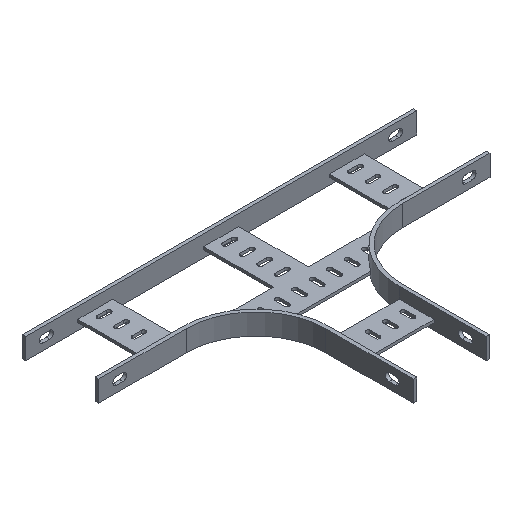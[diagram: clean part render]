
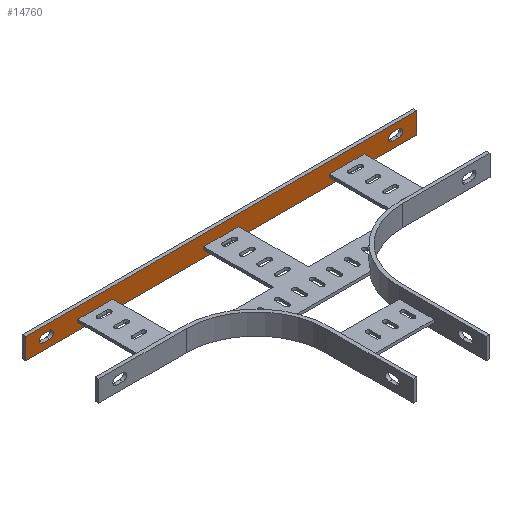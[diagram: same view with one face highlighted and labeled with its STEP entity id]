
A CAD part, isometric view. The second image highlights one B-rep face of the part: STEP entity #14760.
In plain terms, the highlighted planar face has unit normal (0, -1, 0).
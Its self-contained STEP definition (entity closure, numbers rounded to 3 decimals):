
#6440=CARTESIAN_POINT('',(0.,205.,-14.));
#6450=VERTEX_POINT('',#6440);
#6530=CARTESIAN_POINT('',(50.,205.,-14.));
#6540=VERTEX_POINT('',#6530);
#6570=CARTESIAN_POINT('',(0.,205.,-14.));
#6580=DIRECTION('',(-1.,0.,0.));
#6590=VECTOR('',#6580,1.);
#6600=LINE('',#6570,#6590);
#6610=EDGE_CURVE('',#6540,#6450,#6600,.T.);
#8190=CARTESIAN_POINT('',(0.,205.,-10.));
#8200=VERTEX_POINT('',#8190);
#8250=CARTESIAN_POINT('',(0.,205.,0.));
#8260=DIRECTION('',(0.,0.,1.));
#8270=VECTOR('',#8260,1.);
#8280=LINE('',#8250,#8270);
#8290=EDGE_CURVE('',#6450,#8200,#8280,.T.);
#8430=CARTESIAN_POINT('',(50.,205.,-10.));
#8440=VERTEX_POINT('',#8430);
#8490=CARTESIAN_POINT('',(0.,205.,-10.));
#8500=DIRECTION('',(1.,0.,0.));
#8510=VECTOR('',#8500,1.);
#8520=LINE('',#8490,#8510);
#8530=EDGE_CURVE('',#8200,#8440,#8520,.T.);
#10100=CARTESIAN_POINT('',(50.,205.,0.));
#10110=DIRECTION('',(0.,0.,-1.));
#10120=VECTOR('',#10110,1.);
#10130=LINE('',#10100,#10120);
#10140=EDGE_CURVE('',#8440,#6540,#10130,.T.);
#12910=CARTESIAN_POINT('',(-435.,205.,-30.));
#12920=DIRECTION('',(0.,1.,-0.));
#12930=DIRECTION('',(-1.,0.,0.));
#12940=AXIS2_PLACEMENT_3D('',#12910,#12920,#12930);
#12950=PLANE('',#12940);
#12960=CARTESIAN_POINT('',(-435.,205.,-30.));
#12970=DIRECTION('',(1.,0.,0.));
#12980=VECTOR('',#12970,1.);
#12990=LINE('',#12960,#12980);
#13000=CARTESIAN_POINT('',(-435.,205.,-30.));
#13010=VERTEX_POINT('',#13000);
#13020=CARTESIAN_POINT('',(125.,205.,-30.));
#13030=VERTEX_POINT('',#13020);
#13040=EDGE_CURVE('',#13010,#13030,#12990,.T.);
#13050=ORIENTED_EDGE('',*,*,#13040,.T.);
#13060=CARTESIAN_POINT('',(-435.,205.,-30.));
#13070=DIRECTION('',(0.,0.,1.));
#13080=VECTOR('',#13070,1.);
#13090=LINE('',#13060,#13080);
#13100=CARTESIAN_POINT('',(-435.,205.,0.));
#13110=VERTEX_POINT('',#13100);
#13120=EDGE_CURVE('',#13010,#13110,#13090,.T.);
#13130=ORIENTED_EDGE('',*,*,#13120,.F.);
#13140=CARTESIAN_POINT('',(-435.,205.,0.));
#13150=DIRECTION('',(1.,0.,0.));
#13160=VECTOR('',#13150,1.);
#13170=LINE('',#13140,#13160);
#13180=CARTESIAN_POINT('',(125.,205.,0.));
#13190=VERTEX_POINT('',#13180);
#13200=EDGE_CURVE('',#13110,#13190,#13170,.T.);
#13210=ORIENTED_EDGE('',*,*,#13200,.F.);
#13220=CARTESIAN_POINT('',(125.,205.,-30.));
#13230=DIRECTION('',(0.,0.,1.));
#13240=VECTOR('',#13230,1.);
#13250=LINE('',#13220,#13240);
#13260=EDGE_CURVE('',#13030,#13190,#13250,.T.);
#13270=ORIENTED_EDGE('',*,*,#13260,.T.);
#13280=EDGE_LOOP('',(#13270,#13210,#13130,#13050));
#13290=FACE_OUTER_BOUND('',#13280,.T.);
#13300=CARTESIAN_POINT('',(90.5,205.,-15.));
#13310=DIRECTION('',(0.,-1.,0.));
#13320=DIRECTION('',(1.,0.,0.));
#13330=AXIS2_PLACEMENT_3D('',#13300,#13310,#13320);
#13340=CIRCLE('',#13330,5.5);
#13350=CARTESIAN_POINT('',(90.5,205.,-9.5));
#13360=VERTEX_POINT('',#13350);
#13370=CARTESIAN_POINT('',(90.5,205.,-20.5));
#13380=VERTEX_POINT('',#13370);
#13390=EDGE_CURVE('',#13360,#13380,#13340,.T.);
#13400=ORIENTED_EDGE('',*,*,#13390,.F.);
#13410=CARTESIAN_POINT('',(0.,205.,-20.5));
#13420=DIRECTION('',(-1.,0.,0.));
#13430=VECTOR('',#13420,1.);
#13440=LINE('',#13410,#13430);
#13450=CARTESIAN_POINT('',(99.5,205.,-20.5));
#13460=VERTEX_POINT('',#13450);
#13470=EDGE_CURVE('',#13460,#13380,#13440,.T.);
#13480=ORIENTED_EDGE('',*,*,#13470,.T.);
#13490=CARTESIAN_POINT('',(99.5,205.,-15.));
#13500=DIRECTION('',(0.,1.,0.));
#13510=DIRECTION('',(1.,0.,0.));
#13520=AXIS2_PLACEMENT_3D('',#13490,#13500,#13510);
#13530=CIRCLE('',#13520,5.5);
#13540=CARTESIAN_POINT('',(99.5,205.,-9.5));
#13550=VERTEX_POINT('',#13540);
#13560=EDGE_CURVE('',#13550,#13460,#13530,.T.);
#13570=ORIENTED_EDGE('',*,*,#13560,.T.);
#13580=CARTESIAN_POINT('',(0.,205.,-9.5));
#13590=DIRECTION('',(1.,0.,0.));
#13600=VECTOR('',#13590,1.);
#13610=LINE('',#13580,#13600);
#13620=EDGE_CURVE('',#13360,#13550,#13610,.T.);
#13630=ORIENTED_EDGE('',*,*,#13620,.T.);
#13640=EDGE_LOOP('',(#13630,#13570,#13480,#13400));
#13650=FACE_BOUND('',#13640,.T.);
#13660=CARTESIAN_POINT('',(0.,205.,-9.5));
#13670=DIRECTION('',(1.,0.,0.));
#13680=VECTOR('',#13670,1.);
#13690=LINE('',#13660,#13680);
#13700=CARTESIAN_POINT('',(-409.5,205.,-9.5));
#13710=VERTEX_POINT('',#13700);
#13720=CARTESIAN_POINT('',(-400.5,205.,-9.5));
#13730=VERTEX_POINT('',#13720);
#13740=EDGE_CURVE('',#13710,#13730,#13690,.T.);
#13750=ORIENTED_EDGE('',*,*,#13740,.T.);
#13760=CARTESIAN_POINT('',(-409.5,205.,-15.));
#13770=DIRECTION('',(0.,1.,0.));
#13780=DIRECTION('',(-1.,0.,0.));
#13790=AXIS2_PLACEMENT_3D('',#13760,#13770,#13780);
#13800=CIRCLE('',#13790,5.5);
#13810=CARTESIAN_POINT('',(-409.5,205.,-20.5));
#13820=VERTEX_POINT('',#13810);
#13830=EDGE_CURVE('',#13820,#13710,#13800,.T.);
#13840=ORIENTED_EDGE('',*,*,#13830,.T.);
#13850=CARTESIAN_POINT('',(0.,205.,-20.5));
#13860=DIRECTION('',(-1.,0.,0.));
#13870=VECTOR('',#13860,1.);
#13880=LINE('',#13850,#13870);
#13890=CARTESIAN_POINT('',(-400.5,205.,-20.5));
#13900=VERTEX_POINT('',#13890);
#13910=EDGE_CURVE('',#13900,#13820,#13880,.T.);
#13920=ORIENTED_EDGE('',*,*,#13910,.T.);
#13930=CARTESIAN_POINT('',(-400.5,205.,-15.));
#13940=DIRECTION('',(0.,-1.,0.));
#13950=DIRECTION('',(-1.,0.,0.));
#13960=AXIS2_PLACEMENT_3D('',#13930,#13940,#13950);
#13970=CIRCLE('',#13960,5.5);
#13980=EDGE_CURVE('',#13900,#13730,#13970,.T.);
#13990=ORIENTED_EDGE('',*,*,#13980,.F.);
#14000=EDGE_LOOP('',(#13990,#13920,#13840,#13750));
#14010=FACE_BOUND('',#14000,.T.);
#14020=CARTESIAN_POINT('',(0.,205.,-10.));
#14030=DIRECTION('',(1.,0.,0.));
#14040=VECTOR('',#14030,1.);
#14050=LINE('',#14020,#14040);
#14060=CARTESIAN_POINT('',(-360.,205.,-10.));
#14070=VERTEX_POINT('',#14060);
#14080=CARTESIAN_POINT('',(-310.,205.,-10.));
#14090=VERTEX_POINT('',#14080);
#14100=EDGE_CURVE('',#14070,#14090,#14050,.T.);
#14110=ORIENTED_EDGE('',*,*,#14100,.T.);
#14120=CARTESIAN_POINT('',(-360.,205.,0.));
#14130=DIRECTION('',(0.,0.,1.));
#14140=VECTOR('',#14130,1.);
#14150=LINE('',#14120,#14140);
#14160=CARTESIAN_POINT('',(-360.,205.,-14.));
#14170=VERTEX_POINT('',#14160);
#14180=EDGE_CURVE('',#14170,#14070,#14150,.T.);
#14190=ORIENTED_EDGE('',*,*,#14180,.T.);
#14200=CARTESIAN_POINT('',(0.,205.,-14.));
#14210=DIRECTION('',(-1.,0.,0.));
#14220=VECTOR('',#14210,1.);
#14230=LINE('',#14200,#14220);
#14240=CARTESIAN_POINT('',(-310.,205.,-14.));
#14250=VERTEX_POINT('',#14240);
#14260=EDGE_CURVE('',#14250,#14170,#14230,.T.);
#14270=ORIENTED_EDGE('',*,*,#14260,.T.);
#14280=CARTESIAN_POINT('',(-310.,205.,0.));
#14290=DIRECTION('',(0.,0.,-1.));
#14300=VECTOR('',#14290,1.);
#14310=LINE('',#14280,#14300);
#14320=EDGE_CURVE('',#14090,#14250,#14310,.T.);
#14330=ORIENTED_EDGE('',*,*,#14320,.T.);
#14340=EDGE_LOOP('',(#14330,#14270,#14190,#14110));
#14350=FACE_BOUND('',#14340,.T.);
#14360=CARTESIAN_POINT('',(0.,205.,-14.));
#14370=DIRECTION('',(-1.,0.,0.));
#14380=VECTOR('',#14370,1.);
#14390=LINE('',#14360,#14380);
#14400=CARTESIAN_POINT('',(-130.,205.,-14.));
#14410=VERTEX_POINT('',#14400);
#14420=CARTESIAN_POINT('',(-180.,205.,-14.));
#14430=VERTEX_POINT('',#14420);
#14440=EDGE_CURVE('',#14410,#14430,#14390,.T.);
#14450=ORIENTED_EDGE('',*,*,#14440,.T.);
#14460=CARTESIAN_POINT('',(-130.,205.,0.));
#14470=DIRECTION('',(0.,0.,-1.));
#14480=VECTOR('',#14470,1.);
#14490=LINE('',#14460,#14480);
#14500=CARTESIAN_POINT('',(-130.,205.,-10.));
#14510=VERTEX_POINT('',#14500);
#14520=EDGE_CURVE('',#14510,#14410,#14490,.T.);
#14530=ORIENTED_EDGE('',*,*,#14520,.T.);
#14540=CARTESIAN_POINT('',(0.,205.,-10.));
#14550=DIRECTION('',(1.,0.,0.));
#14560=VECTOR('',#14550,1.);
#14570=LINE('',#14540,#14560);
#14580=CARTESIAN_POINT('',(-180.,205.,-10.));
#14590=VERTEX_POINT('',#14580);
#14600=EDGE_CURVE('',#14590,#14510,#14570,.T.);
#14610=ORIENTED_EDGE('',*,*,#14600,.T.);
#14620=CARTESIAN_POINT('',(-180.,205.,0.));
#14630=DIRECTION('',(0.,0.,1.));
#14640=VECTOR('',#14630,1.);
#14650=LINE('',#14620,#14640);
#14660=EDGE_CURVE('',#14430,#14590,#14650,.T.);
#14670=ORIENTED_EDGE('',*,*,#14660,.T.);
#14680=EDGE_LOOP('',(#14670,#14610,#14530,#14450));
#14690=FACE_BOUND('',#14680,.T.);
#14700=ORIENTED_EDGE('',*,*,#8530,.T.);
#14710=ORIENTED_EDGE('',*,*,#8290,.T.);
#14720=ORIENTED_EDGE('',*,*,#6610,.T.);
#14730=ORIENTED_EDGE('',*,*,#10140,.T.);
#14740=EDGE_LOOP('',(#14730,#14720,#14710,#14700));
#14750=FACE_BOUND('',#14740,.T.);
#14760=ADVANCED_FACE('',(#13290,#13650,#14010,#14350,#14690,#14750),
#12950,.F.);
